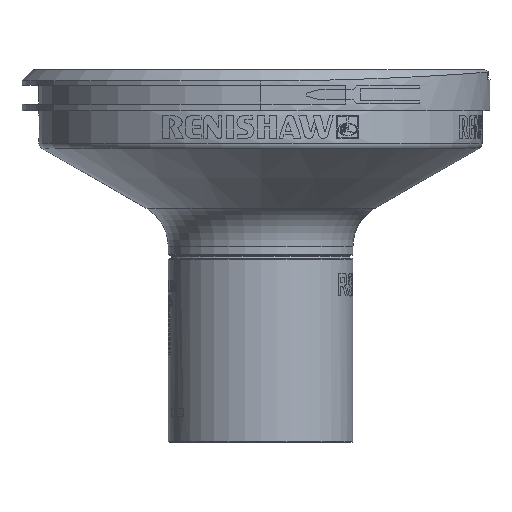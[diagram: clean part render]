
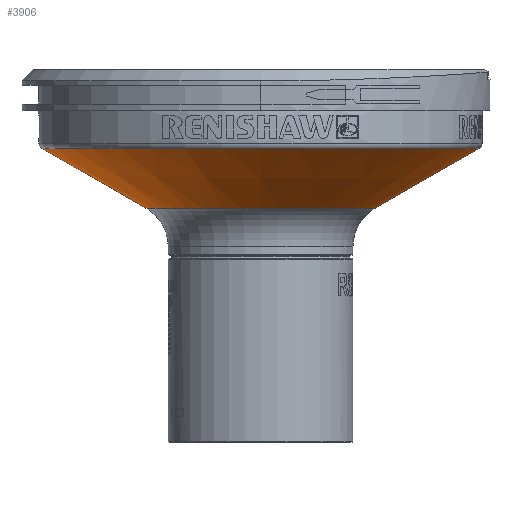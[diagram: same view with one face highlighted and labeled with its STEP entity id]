
A CAD part, left-side view. The second image highlights one B-rep face of the part: STEP entity #3906.
In plain terms, the highlighted conical face has half-angle 60.255 degrees and reference radius 30 mm.
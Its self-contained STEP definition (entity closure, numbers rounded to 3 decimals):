
#3602=CONICAL_SURFACE('',#10097,30.,60.255);
#3906=ADVANCED_FACE('',(#4183,#4184),#3602,.T.);
#4183=FACE_BOUND('',#4339,.T.);
#4184=FACE_BOUND('',#4340,.T.);
#4339=EDGE_LOOP('',(#4796));
#4340=EDGE_LOOP('',(#4797));
#4796=ORIENTED_EDGE('',*,*,#8572,.T.);
#4797=ORIENTED_EDGE('',*,*,#8489,.T.);
#7346=VERTEX_POINT('',#12082);
#7429=VERTEX_POINT('',#12775);
#8489=EDGE_CURVE('',#7346,#7346,#9806,.T.);
#8572=EDGE_CURVE('',#7429,#7429,#9815,.T.);
#9806=CIRCLE('',#10055,15.523);
#9815=CIRCLE('',#10096,29.547);
#10055=AXIS2_PLACEMENT_3D('',#12081,#10622,#10623);
#10096=AXIS2_PLACEMENT_3D('',#12774,#10730,#10731);
#10097=AXIS2_PLACEMENT_3D('',#12776,#10732,#10733);
#10622=DIRECTION('',(0.,0.,1.));
#10623=DIRECTION('',(1.,0.,0.));
#10730=DIRECTION('',(0.,0.,-1.));
#10731=DIRECTION('',(-1.,0.,0.));
#10732=DIRECTION('',(0.,0.,1.));
#10733=DIRECTION('',(0.,-1.,0.));
#12081=CARTESIAN_POINT('',(0.,0.,
-19.572));
#12082=CARTESIAN_POINT('',(15.523,0.,-19.572));
#12774=CARTESIAN_POINT('',(0.,0.,
-11.559));
#12775=CARTESIAN_POINT('',(-29.547,0.,-11.559));
#12776=CARTESIAN_POINT('',(0.,0.,
-11.3));
